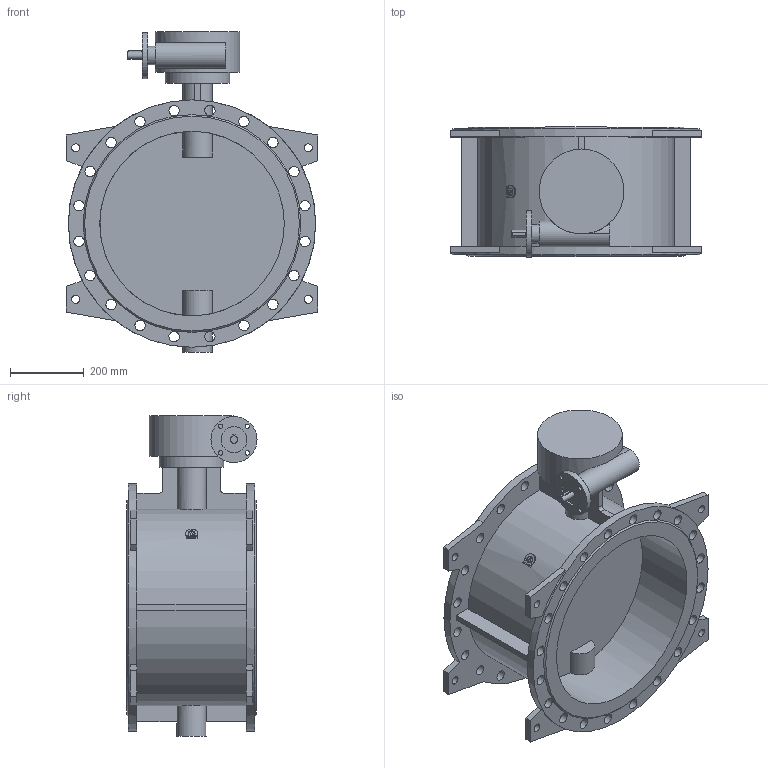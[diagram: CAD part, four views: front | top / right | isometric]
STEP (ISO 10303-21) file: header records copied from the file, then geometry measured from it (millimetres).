
FILE_DESCRIPTION(('STEP AP203'), '1');
FILE_NAME('Çàòâîð 023F.Z DN500 PN10_ð-ð_ôë', '', ('UNSPECIFIED'), ('UNSPECIFIED'), 'ASCON STEP Converter 1.6', 'ASCON Math Kernel', '');
FILE_SCHEMA(('CONFIG_CONTROL_DESIGN'));
Length unit declared in the file: millimetre
Bounding box: 680 x 352.5 x 869 mm (x, y, z)
Volume: 32785441.1 mm3; surface area: 2588278.4 mm2
Topology: 1 solids, 1 shells, 187 faces, 484 edges, 322 vertices
Faces by surface type: plane 95, cylinder 90, cone 2
Full cylindrical faces by diameter (mm): 12 x4, 14 x4, 18 x4, 20 x1, 22 x8, 28 x40, 50 x1, 70 x2, 80 x1, 125 x1, 175 x1, 230 x1, 500 x2, 670 x2
Entity records: 8193 total; most frequent: CARTESIAN_POINT 2042, DIRECTION 957, ORIENTED_EDGE 812, EDGE_CURVE 406, EDGE_LOOP 389, AXIS2_PLACEMENT_3D 383, VERTEX_POINT 321, FACE_BOUND 246
